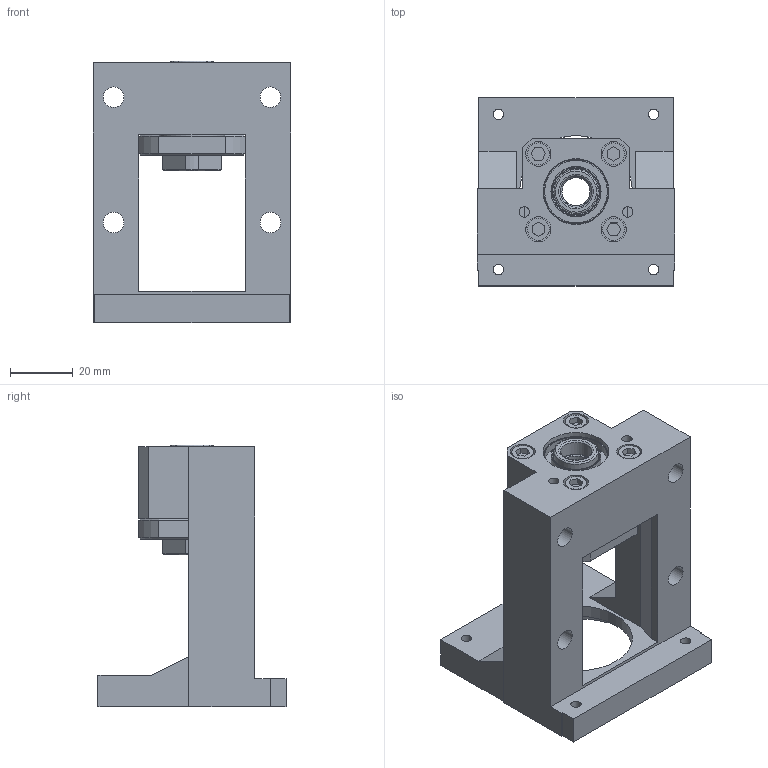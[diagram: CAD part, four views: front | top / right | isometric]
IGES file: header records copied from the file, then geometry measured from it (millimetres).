
Start section: SolidWorks IGES file using analytic representation for surfaces
Bounding box: 63 x 60 x 83.5 mm (x, y, z)
Surface area: 30887.2 mm2 (no closed solid volume)
Topology: 0 solids, 0 shells, 182 faces, 920 edges, 859 vertices
Faces by surface type: bspline 104, revolution 78
